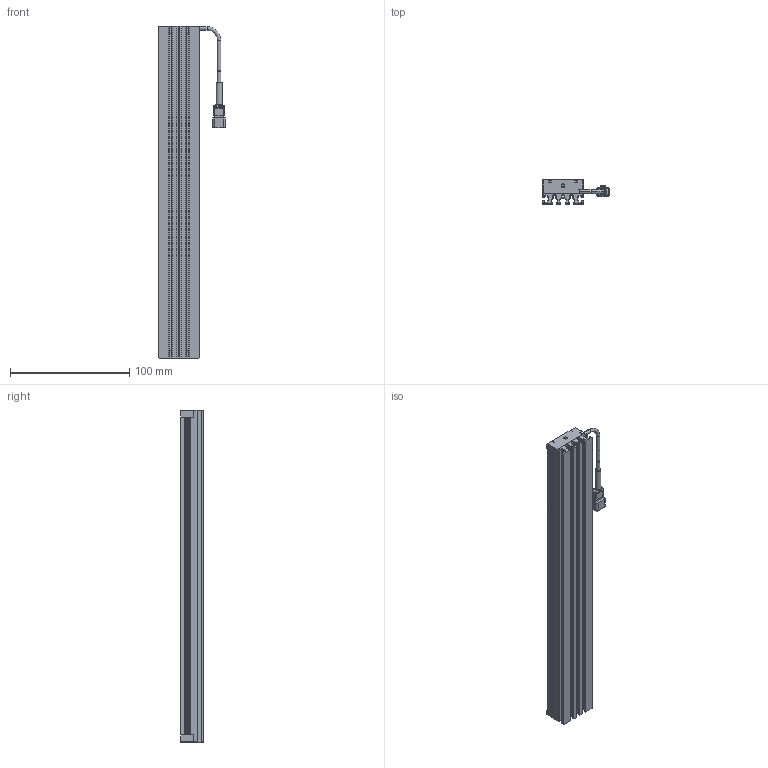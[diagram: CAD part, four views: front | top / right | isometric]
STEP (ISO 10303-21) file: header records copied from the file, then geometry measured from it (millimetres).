
FILE_DESCRIPTION (( 'STEP AP203' ), '1' );
FILE_NAME ('LDL2-266X30GR2.STEP', '2024-10-01T02:22:38', ( 'CCS' ), ( 'シーシーエス株式会社' ), 'SwSTEP 2.0', 'SolidWorks 2022', '' );
FILE_SCHEMA (( 'CONFIG_CONTROL_DESIGN' ));
Length unit declared in the file: millimetre
Products named in the file (7): ブロック30B_LDL2-266X30GR2; LDL2-266X30GR2; BSCA002-N007_M2x12_CAP(三価ｸﾛﾑ黒色); ブロック30A_LDL2-266X30GR2; レンズ30_LDL2-266X30GR2; SMケーブル_LDL2-266X30GR2_パターン2; フレーム30_LDL2-266X30GR2
Assembly tree (9 placements, depth 2):
  LDL2-266X30GR2
    フレーム30_LDL2-266X30GR2
    レンズ30_LDL2-266X30GR2
    ブロック30B_LDL2-266X30GR2
    ブロック30A_LDL2-266X30GR2
    BSCA002-N007_M2x12_CAP(三価ｸﾛﾑ黒色)  x4
    SMケーブル_LDL2-266X30GR2_パターン2
Bounding box: 55.75 x 20 x 278 mm (x, y, z)
Volume: 145361.4 mm3; surface area: 84235 mm2
Topology: 10 solids, 10 shells, 481 faces, 1243 edges, 785 vertices
Faces by surface type: plane 288, cylinder 107, bspline 44, cone 24, torus 18
Entity records: 14886 total; most frequent: CARTESIAN_POINT 4295, ORIENTED_EDGE 2118, DIRECTION 1903, EDGE_CURVE 1059, VECTOR 761, LINE 761, VERTEX_POINT 686, AXIS2_PLACEMENT_3D 571
